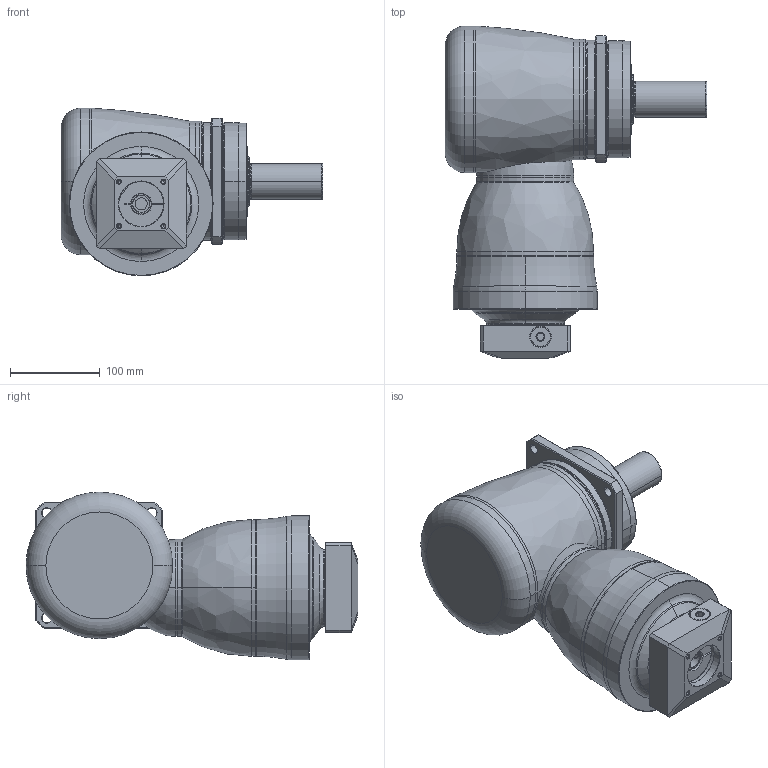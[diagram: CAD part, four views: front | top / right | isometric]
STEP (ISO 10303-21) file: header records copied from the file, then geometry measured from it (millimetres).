
FILE_DESCRIPTION((''),'2;1');
FILE_NAME('KF140_2ST_19-P0409410101_ASM','2016-06-30T',('d01943'),(''),'PRO/ENGINEER BY PARAMETRIC TECHNOLOGY CORPORATION, 2008410','PRO/ENGINEER BY PARAMETRIC TECHNOLOGY CORPORATION, 2008410','');
FILE_SCHEMA(('CONFIG_CONTROL_DESIGN'));
Length unit declared in the file: millimetre
Products named in the file (11): P1008500002; P1804500001; P0915500001; P1315500001; P1007500001; P1317500001; P0409410101; P0503400008; P0912400001; 21711416017; KF140_2ST_19-P0409410101_ASM
Assembly tree (10 placements, depth 2):
  KF140_2ST_19-P0409410101_ASM
    P1008500002
    P1804500001
    P0915500001
    P1315500001
    P1007500001
    P1317500001
    P0409410101
    P0503400008
    P0912400001
    21711416017
Bounding box: 291 x 369 x 186.5 mm (x, y, z)
Volume: 4975297.1 mm3; surface area: 507165.2 mm2
Topology: 11 solids, 11 shells, 442 faces, 978 edges, 575 vertices
Faces by surface type: cylinder 140, cone 116, plane 93, torus 68, bspline 23, sphere 2
Entity records: 17139 total; most frequent: CARTESIAN_POINT 7125, DIRECTION 2227, ORIENTED_EDGE 1920, EDGE_CURVE 960, AXIS2_PLACEMENT_3D 948, VERTEX_POINT 575, CIRCLE 508, EDGE_LOOP 503
